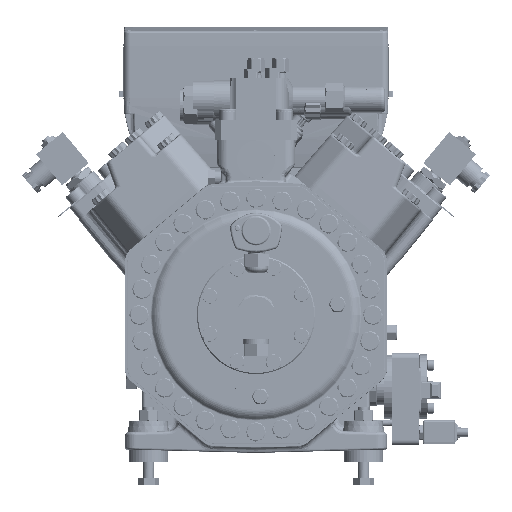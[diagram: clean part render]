
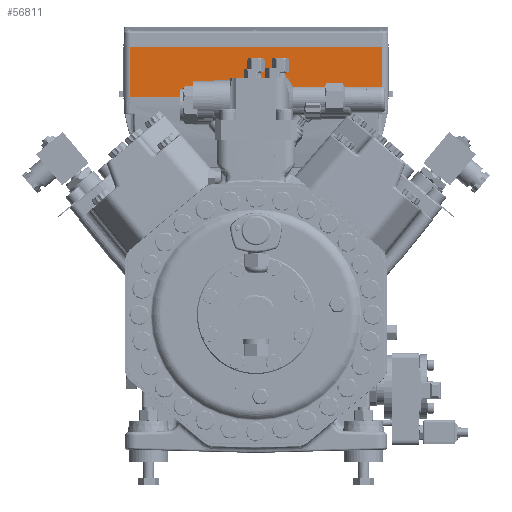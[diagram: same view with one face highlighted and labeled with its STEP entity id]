
A CAD part, front view. The second image highlights one B-rep face of the part: STEP entity #56811.
In plain terms, the highlighted planar face has unit normal (0, -1, 0) as drawn and (1, 0, 0) by its records, which use the part's own axes.
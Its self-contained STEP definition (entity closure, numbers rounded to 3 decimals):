
#34862=LINE('',#337543,#45221);
#34962=LINE('',#338173,#45321);
#34963=LINE('',#338176,#45322);
#34964=LINE('',#338177,#45323);
#45221=VECTOR('',#246116,1.);
#45321=VECTOR('',#246400,1.);
#45322=VECTOR('',#246401,1.);
#45323=VECTOR('',#246402,1.);
#56811=ADVANCED_FACE('',(#73860),#66351,.T.);
#66351=PLANE('',#217033);
#73860=FACE_OUTER_BOUND('',#85791,.T.);
#85791=EDGE_LOOP('',(#117413,#117414,#117415,#117416));
#117413=ORIENTED_EDGE('',*,*,#184168,.F.);
#117414=ORIENTED_EDGE('',*,*,#184169,.T.);
#117415=ORIENTED_EDGE('',*,*,#183972,.T.);
#117416=ORIENTED_EDGE('',*,*,#184170,.T.);
#160805=VERTEX_POINT('',#337542);
#160806=VERTEX_POINT('',#337544);
#160984=VERTEX_POINT('',#338174);
#160985=VERTEX_POINT('',#338175);
#183972=EDGE_CURVE('',#160806,#160805,#34862,.T.);
#184168=EDGE_CURVE('',#160984,#160985,#34962,.T.);
#184169=EDGE_CURVE('',#160984,#160806,#34963,.T.);
#184170=EDGE_CURVE('',#160805,#160985,#34964,.T.);
#217033=AXIS2_PLACEMENT_3D('',#338178,#246403,#246404);
#246116=DIRECTION('',(0.,1.,0.));
#246400=DIRECTION('',(0.,1.,0.));
#246401=DIRECTION('',(0.,0.,-1.));
#246402=DIRECTION('',(0.,0.,1.));
#246403=DIRECTION('',(1.,0.,0.));
#246404=DIRECTION('',(0.,0.,1.));
#337542=CARTESIAN_POINT('',(73.,116.,66.));
#337543=CARTESIAN_POINT('',(73.,0.,66.));
#337544=CARTESIAN_POINT('',(73.,-116.,66.));
#338173=CARTESIAN_POINT('',(73.,0.,111.5));
#338174=CARTESIAN_POINT('',(73.,-116.,111.5));
#338175=CARTESIAN_POINT('',(73.,116.,111.5));
#338176=CARTESIAN_POINT('',(73.,-116.,114.));
#338177=CARTESIAN_POINT('',(73.,116.,114.));
#338178=CARTESIAN_POINT('',(73.,0.,114.));
